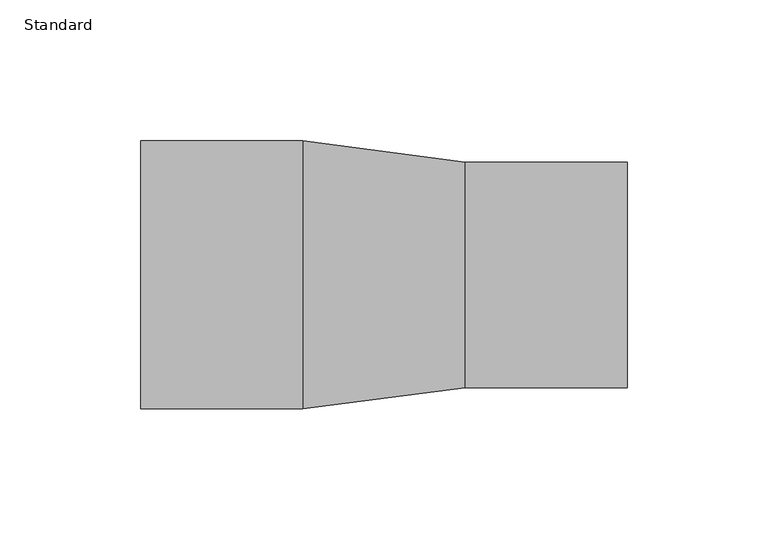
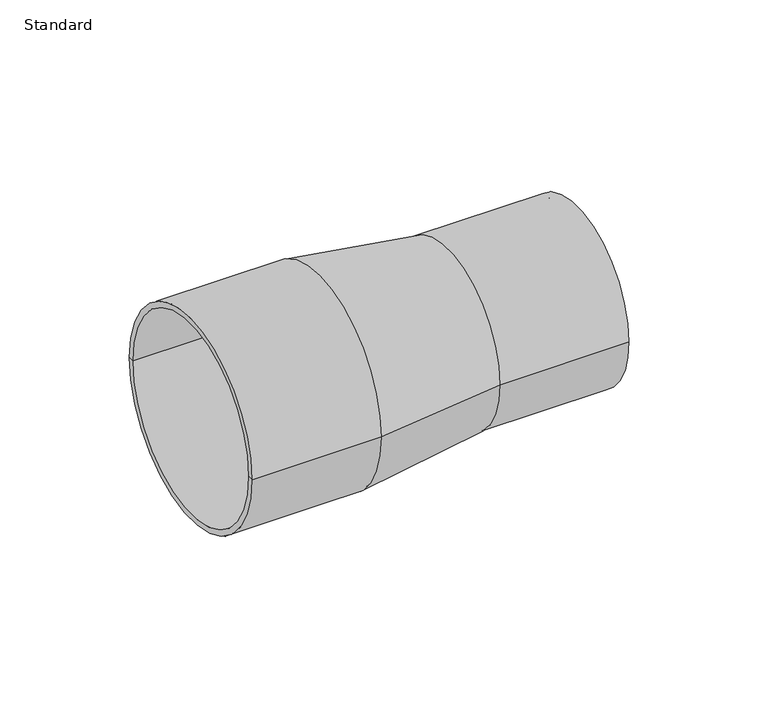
"""IFC4 building model written with IfcOpenShell, lengths in millimetres: pipe fitting geometry, Durapipe_PipeFitting_PVC_Reducers : Standard."""

from ifc_helpers import new_model, si_unit, frame, origin, place, context, project, spatial, polyline, circle_curve, source, transform, mapped, element, save
from ifc_brep_helpers import plane_surface, cylinder_surface, revolved_surface, advanced_brep


def standard_f10e078b(model_context):
    return source(origin(), model_context, "Body", "AdvancedBrep", [
        advanced_brep(
        [(-86.25, -47.5, 0.0), (-86.25, 47.5, 0.0), (-28.75, 47.5, 0.0), (-28.75, -47.5, 0.0), (-86.25, -45.0, 0.0), (-86.25, 45.0, 0.0), (86.25, -40.0, 0.0), (86.25, 40.0, 0.0), (86.25, 37.5, 0.0), (86.25, -37.5, 0.0), (28.75, -40.0, 0.0), (28.75, 40.0, 0.0), (-28.75, -45.0, 0.0), (-28.75, 45.0, 0.0), (-28.75, 0.0, 0.0), (28.75, -37.5, 0.0), (28.75, 37.5, 0.0), (28.75, 0.0, 0.0)],
        [
            (0, 1, circle_curve(frame((-86.25, 0.0, 0.0), z_axis=(1.0, 0.0, 0.0), x_axis=(0.0, 1.0, 0.0)), 47.5)),
            (1, 2),
            (2, 3, circle_curve(frame((-28.75, 0.0, 0.0), z_axis=(-1.0, 0.0, 0.0), x_axis=(0.0, 1.0, 0.0)), 47.5)),
            (3, 0),
            (1, 0, circle_curve(frame((-86.25, 0.0, 0.0), z_axis=(1.0, 0.0, 0.0), x_axis=(0.0, 1.0, 0.0)), 47.5)),
            (3, 2, circle_curve(frame((-28.75, 0.0, 0.0), z_axis=(-1.0, 0.0, 0.0), x_axis=(0.0, 1.0, 0.0)), 47.5)),
            (4, 5, circle_curve(frame((-86.25, 0.0, 0.0), z_axis=(1.0, 0.0, 0.0), x_axis=(0.0, 1.0, 0.0)), 45.0)),
            (5, 1),
            (0, 4),
            (5, 4, circle_curve(frame((-86.25, 0.0, 0.0), z_axis=(1.0, 0.0, 0.0), x_axis=(0.0, 1.0, 0.0)), 45.0)),
            (6, 7, circle_curve(frame((86.25, 0.0, 0.0), z_axis=(1.0, 0.0, 0.0), x_axis=(0.0, 1.0, 0.0)), 40.0)),
            (7, 8),
            (8, 9, circle_curve(frame((86.25, 0.0, 0.0), z_axis=(-1.0, 0.0, 0.0), x_axis=(0.0, 1.0, 0.0)), 37.5)),
            (9, 6),
            (7, 6, circle_curve(frame((86.25, 0.0, 0.0), z_axis=(1.0, 0.0, 0.0), x_axis=(0.0, 1.0, 0.0)), 40.0)),
            (9, 8, circle_curve(frame((86.25, 0.0, 0.0), z_axis=(-1.0, 0.0, 0.0), x_axis=(0.0, 1.0, 0.0)), 37.5)),
            (10, 11, circle_curve(frame((28.75, 0.0, 0.0), z_axis=(1.0, 0.0, 0.0), x_axis=(0.0, 1.0, 0.0)), 40.0)),
            (11, 7),
            (6, 10),
            (11, 10, circle_curve(frame((28.75, 0.0, 0.0), z_axis=(1.0, 0.0, 0.0), x_axis=(0.0, 1.0, 0.0)), 40.0)),
            (2, 11),
            (10, 3),
            (12, 13, circle_curve(frame((-28.75, 0.0, 0.0), z_axis=(1.0, 0.0, 0.0), x_axis=(0.0, 1.0, 0.0)), 45.0)),
            (13, 5),
            (4, 12),
            (13, 12, circle_curve(frame((-28.75, 0.0, 0.0), z_axis=(1.0, 0.0, 0.0), x_axis=(0.0, 1.0, 0.0)), 45.0)),
            (14, 13),
            (12, 14),
            (15, 16, circle_curve(frame((28.75, 0.0, 0.0), z_axis=(1.0, 0.0, 0.0), x_axis=(0.0, 1.0, 0.0)), 37.5)),
            (16, 17),
            (17, 15),
            (16, 15, circle_curve(frame((28.75, 0.0, 0.0), z_axis=(1.0, 0.0, 0.0), x_axis=(0.0, 1.0, 0.0)), 37.5)),
            (8, 16),
            (15, 9),
        ],
        [
            cylinder_surface(frame((-86.25, 0.0, 0.0), z_axis=(-1.0, 0.0, 0.0), x_axis=(0.0, 1.0, 0.0)), 47.5),
            plane_surface(frame((-86.25, 0.0, 0.0), z_axis=(-1.0, 0.0, 0.0), x_axis=(0.0, 1.0, 0.0))),
            plane_surface(frame((86.25, 0.0, 0.0), z_axis=(1.0, 0.0, 0.0), x_axis=(0.0, 1.0, 0.0))),
            cylinder_surface(frame((-86.25, 0.0, 0.0), z_axis=(-1.0, 0.0, 0.0), x_axis=(0.0, 1.0, 0.0)), 40.0),
            revolved_surface(polyline([(28.75, 40.0, 0.0), (-28.75, 47.5, 0.0)]), (-86.25, 0.0, 0.0), (-1.0, 0.0, 0.0)),
            revolved_surface(polyline([(-86.25, 45.0, 0.0), (-28.75, 45.0, 0.0)]), (-86.25, 0.0, 0.0), (-1.0, 0.0, 0.0)),
            plane_surface(frame((-28.75, 0.0, 0.0), z_axis=(-1.0, 0.0, 0.0), x_axis=(0.0, 1.0, 0.0))),
            plane_surface(frame((28.75, 0.0, 0.0), z_axis=(1.0, 0.0, 0.0), x_axis=(0.0, 1.0, 0.0))),
            revolved_surface(polyline([(28.75, 37.5, 0.0), (86.25, 37.5, 0.0)]), (-86.25, 0.0, 0.0), (-1.0, 0.0, 0.0)),
        ],
        [
            (0, [[1, 2, 3, 4]]),
            (0, [[5, -4, 6, -2]]),
            (1, [[7, 8, -1, 9]]),
            (1, [[10, -9, -5, -8]]),
            (2, [[11, 12, 13, 14]]),
            (2, [[15, -14, 16, -12]]),
            (3, [[17, 18, -11, 19]]),
            (3, [[20, -19, -15, -18]]),
            (4, [[-3, 21, -17, 22]]),
            (4, [[-6, -22, -20, -21]]),
            (5, [[23, 24, -7, 25]]),
            (5, [[26, -25, -10, -24]]),
            (6, [[27, -23, 28]]),
            (6, [[-28, -26, -27]]),
            (7, [[29, 30, 31]]),
            (7, [[32, -31, -30]]),
            (8, [[-13, 33, -29, 34]]),
            (8, [[-16, -34, -32, -33]]),
        ],
    ),
    ])


if __name__ == "__main__":
    model = new_model("IFC4")
    model_context = context("Model", 3, world=origin())
    ifc_project = project(units=[si_unit("LENGTHUNIT", "METRE", prefix="MILLI")], contexts=[model_context])
    site = spatial("IfcSite", under=ifc_project)
    building = spatial("IfcBuilding", under=site)
    placement = place(None, origin())
    standard_shape = standard_f10e078b(model_context)
    element("IfcPipeFitting", 1, ObjectType="Durapipe_PipeFitting_PVC_Reducers : Standard", at=placement, inside=building, context=model_context, shape_type="MappedRepresentation", body=[
        mapped(standard_shape, transform((0.0, 0.0, 0.0), x_axis=(1.0, 0.0, 0.0), y_axis=(0.0, 1.0, 0.0), z_axis=(0.0, 0.0, 1.0))),
    ])
    save(model, "model.ifc")
